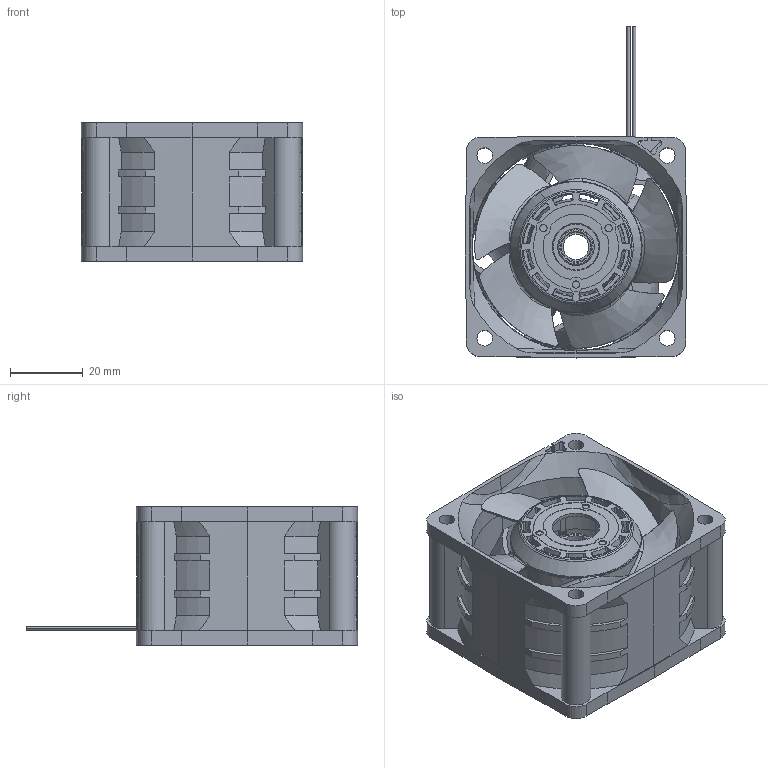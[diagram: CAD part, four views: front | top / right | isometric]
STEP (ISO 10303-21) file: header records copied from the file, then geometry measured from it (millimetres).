
FILE_DESCRIPTION((''),'2;1');
FILE_NAME('ADMI0EB4CBD2ZZD6_ASM','2026-09-29T10:44:11',('pc'),(''),'CREO PARAMETRIC BY PTC INC, 2018050','CREO PARAMETRIC BY PTC INC, 2018050','');
FILE_SCHEMA(('CONFIG_CONTROL_DESIGN','GEOMETRIC_VALIDATION_PROPERTIES_MIM'));
Products named in the file (3): ADMI0EB4CBD2ZZD6_1; ADMI0EB4CBD2ZZD6_2; ADMI0EB4CBD2ZZD6_ASM
Assembly tree (2 placements, depth 2):
  ADMI0EB4CBD2ZZD6_ASM
    ADMI0EB4CBD2ZZD6_1
    ADMI0EB4CBD2ZZD6_2
Bounding box: 60.96 x 91.27 x 38 mm (x, y, z)
Volume: 38049.1 mm3; surface area: 42730.8 mm2
Topology: 2 solids, 2 shells, 740 faces, 2210 edges, 1448 vertices
Faces by surface type: cylinder 211, plane 185, bspline 170, cone 111, extrusion 40, torus 23
Entity records: 43232 total; most frequent: CARTESIAN_POINT 25078, ORIENTED_EDGE 4380, DIRECTION 2913, EDGE_CURVE 2190, VERTEX_POINT 1448, AXIS2_PLACEMENT_3D 1155, B_SPLINE_CURVE_WITH_KNOTS 1047, EDGE_LOOP 790
